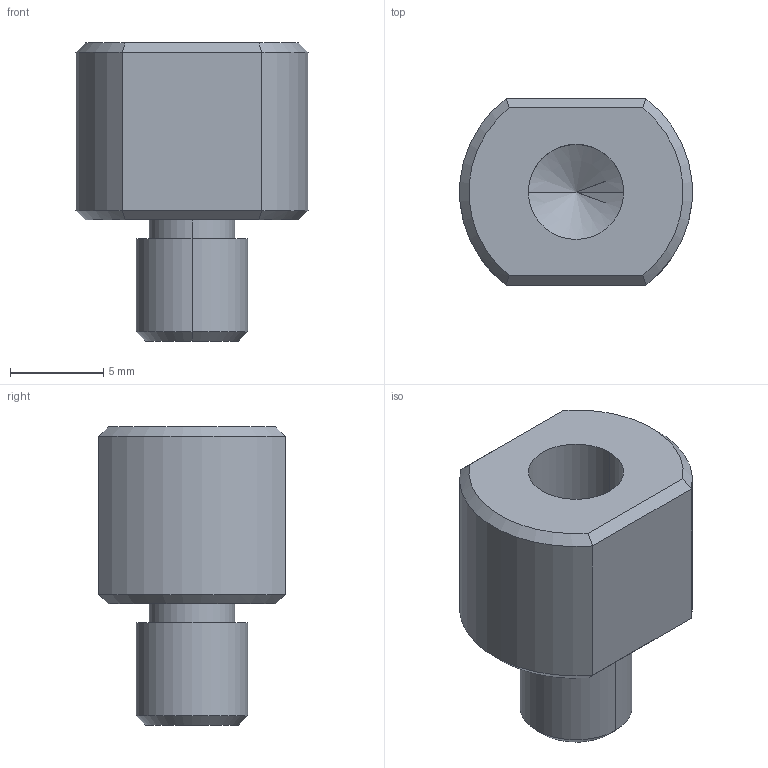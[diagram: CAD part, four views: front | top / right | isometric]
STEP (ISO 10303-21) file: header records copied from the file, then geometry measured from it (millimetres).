
FILE_DESCRIPTION (( 'STEP AP203' ), '1' );
FILE_NAME ('TAIE25M6.STEP', '2022-01-27T01:52:27', ( '' ), ( '' ), 'SwSTEP 2.0', 'SolidWorks 2019', '' );
FILE_SCHEMA (( 'CONFIG_CONTROL_DESIGN' ));
Length unit declared in the file: millimetre
Products named in the file (1): TAIE25M6
Bounding box: 12.46 x 10 x 16 mm (x, y, z)
Volume: 1051.3 mm3; surface area: 810.9 mm2
Topology: 1 solids, 1 shells, 26 faces, 54 edges, 31 vertices
Faces by surface type: plane 10, cylinder 8, cone 8
Entity records: 755 total; most frequent: CARTESIAN_POINT 134, DIRECTION 120, ORIENTED_EDGE 104, EDGE_CURVE 52, AXIS2_PLACEMENT_3D 49, VERTEX_POINT 31, EDGE_LOOP 29, FACE_OUTER_BOUND 26
